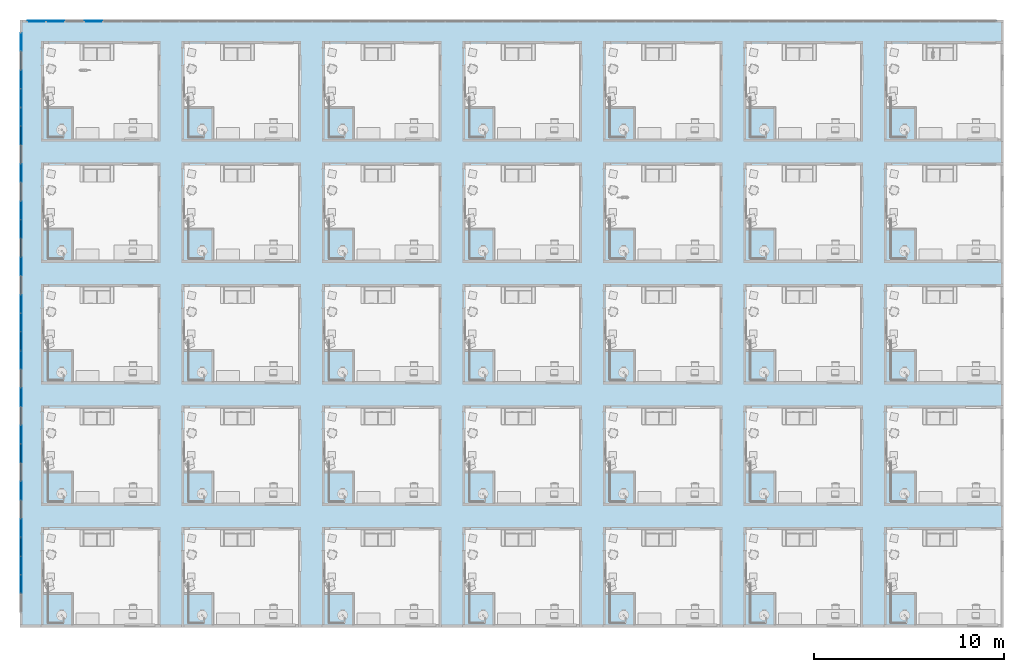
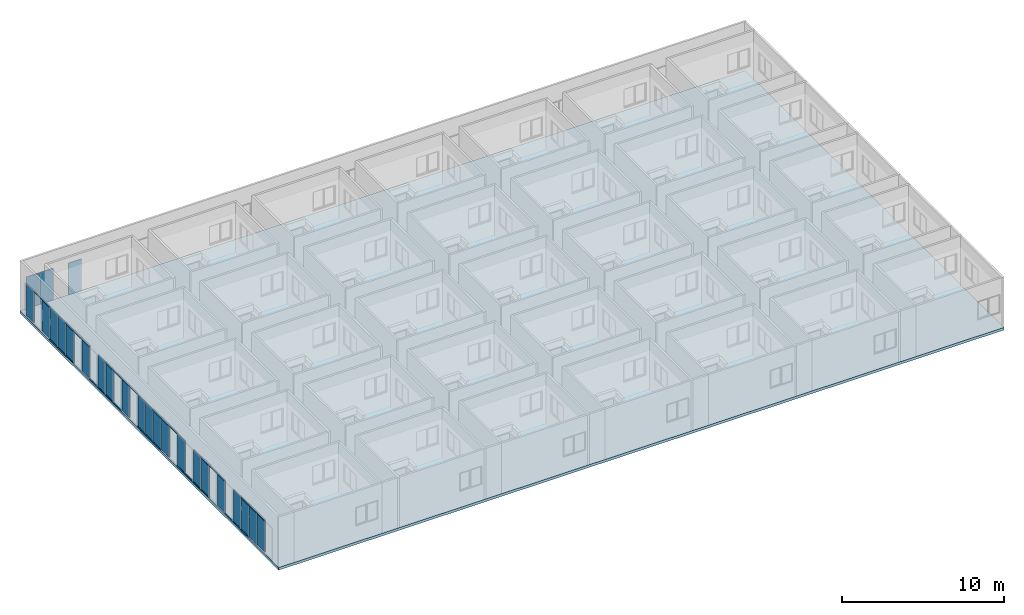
# One storey, part 5 of 71: 35 members, 24 plates, 1 slab, 2 elements without a shape of their own.
"""IFC4 building model written with IfcOpenShell, lengths in centimetres."""

from ifc_helpers import new_model, entity, si_unit, converted_unit, derived_unit, direction, frame, origin, place, context, subcontext, project, spatial, indexed_curve, outline, extrude, source, transform, mapped, material, type_object, type_shapes, element, aggregate, save


model = new_model("IFC4")

# Units and contexts
model_context = context("Model", 3, precision=0.001, world=origin(), true_north=direction((6.123233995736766e-17, 1.0)))
body_context = subcontext(model_context, "Body", "Model", "MODEL_VIEW")
ifc_project = project(units=[si_unit("LENGTHUNIT", "METRE", prefix="CENTI"), si_unit("AREAUNIT", "SQUARE_METRE"), si_unit("VOLUMEUNIT", "CUBIC_METRE"), derived_unit("THERMALTRANSMITTANCEUNIT", [(si_unit("MASSUNIT", "GRAM", prefix="KILO"), 1), (si_unit("THERMODYNAMICTEMPERATUREUNIT", "KELVIN"), -1), (si_unit("TIMEUNIT", "SECOND"), -3)]), converted_unit("PLANEANGLEUNIT", "DEGREE", entity("IfcPlaneAngleMeasure", 0.017453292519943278), si_unit("PLANEANGLEUNIT", "RADIAN"), dimensions=[0, 0, 0, 0, 0, 0, 0]), derived_unit("MASSDENSITYUNIT", [(si_unit("MASSUNIT", "GRAM", prefix="KILO"), 1), (si_unit("LENGTHUNIT", "METRE"), -3)]), derived_unit("VAPORPERMEABILITYUNIT", [(si_unit("LENGTHUNIT", "METRE"), -1), (si_unit("TIMEUNIT", "SECOND"), 1)]), derived_unit("USERDEFINED", [(si_unit("MASSUNIT", "GRAM", prefix="KILO"), 1), (si_unit("TIMEUNIT", "SECOND"), -3), (si_unit("LENGTHUNIT", "METRE"), 3), (si_unit("ELECTRICCURRENTUNIT", "AMPERE"), -2)]), derived_unit("SPECIFICHEATCAPACITYUNIT", [(si_unit("THERMODYNAMICTEMPERATUREUNIT", "KELVIN"), -1), (si_unit("LENGTHUNIT", "METRE"), 2), (si_unit("TIMEUNIT", "SECOND"), -2)]), derived_unit("THERMALCONDUCTANCEUNIT", [(si_unit("MASSUNIT", "GRAM", prefix="KILO"), 1), (si_unit("THERMODYNAMICTEMPERATUREUNIT", "KELVIN"), -1), (si_unit("TIMEUNIT", "SECOND"), -3), (si_unit("LENGTHUNIT", "METRE"), 1)]), si_unit("PRESSUREUNIT", "PASCAL"), derived_unit("MODULUSOFELASTICITYUNIT", [(si_unit("MASSUNIT", "GRAM", prefix="KILO"), 1), (si_unit("LENGTHUNIT", "METRE"), -1), (si_unit("TIMEUNIT", "SECOND"), -2)]), derived_unit("THERMALEXPANSIONCOEFFICIENTUNIT", [(si_unit("THERMODYNAMICTEMPERATUREUNIT", "KELVIN"), -1)])], contexts=[model_context])

# Site, building, storey
site_placement = place(None, origin())
site = spatial("IfcSite", under=ifc_project, at=site_placement, Name="Default", CompositionType="ELEMENT")
building_placement = place(site_placement, origin())
building = spatial("IfcBuilding", under=site, at=building_placement, Name="IDS Escape Game Building", CompositionType="ELEMENT")
storey_placement = place(building_placement, frame((0.0, 0.0, 400.0)))
storey = spatial("IfcBuildingStorey", under=building, at=storey_placement, Name="01_First Floor", CompositionType="ELEMENT", Elevation=399.99999999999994)

# Curtain wall, members
curtain_wall_type = type_object("IfcCurtainWallType", Name="Curtain Wall:ARC_31.3_CWA_LIB_bandraam vast 100cm - profiel 60x60_gen_BERSnl", PredefinedType="NOTDEFINED")
curtain_wall_1_placement = place(storey_placement, frame((0.0, 0.0, -400.0)))
curtain_wall_1 = element("IfcCurtainWall", 1, at=curtain_wall_1_placement, inside=storey, type_object=curtain_wall_type, Name="Curtain Wall:ARC_31.3_CWA_LIB_bandraam vast 100cm - profiel 60x60_gen_BERSnl", ObjectType="Curtain Wall:ARC_31.3_CWA_LIB_bandraam vast 100cm - profiel 60x60_gen_BERSnl", PredefinedType="NOTDEFINED")
ifc_material_1 = material(Name="<Unnamed>")
member_type_1 = type_object("IfcMemberType", Name="Rectangular Mullion:30-_Stijl_Rechthoek_Midden_B60xD60", PredefinedType="MULLION", material=ifc_material_1)
shared_shape_1 = source(origin(), body_context, "Body", "SweptSolid", [
    extrude(outline(indexed_curve([(-3.0, -3.0), (3.0, -3.0), (3.0, 3.0), (-3.0, 3.0), (-3.0, -3.0)], self_intersect=False)), frame((-3.0, 3.0, -98.1935483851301), z_axis=(0.0, 0.0, 1.0), x_axis=(-1.0, 0.0, 0.0)), (0.0, 0.0, 1.0), 98.1935483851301),
])
type_shapes(member_type_1, [shared_shape_1])
member_1_placement = place(curtain_wall_1_placement, frame((-110.0, 2925.61290319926, 650.0), z_axis=(0.0, -1.0, 0.0), x_axis=(0.0, 0.0, 1.0)))
member_1 = element("IfcMember", 2, at=member_1_placement, type_object=member_type_1, material=ifc_material_1, Name="Rectangular Mullion:30-_Stijl_Rechthoek_Midden_B60xD60", ObjectType="Rectangular Mullion:30-_Stijl_Rechthoek_Midden_B60xD60", PredefinedType="MULLION", context=body_context, shape_type="MappedRepresentation", body=[
    mapped(shared_shape_1, transform((0.0, 0.0, 0.0), scale=1.0)),
])
member_2_placement = place(curtain_wall_1_placement, frame((-110.0, 2827.4193548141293, 650.0), z_axis=(0.0, -1.0, 0.0), x_axis=(0.0, 0.0, 1.0)))
member_2 = element("IfcMember", 3, at=member_2_placement, type_object=member_type_1, material=ifc_material_1, Name="Rectangular Mullion:30-_Stijl_Rechthoek_Midden_B60xD60", ObjectType="Rectangular Mullion:30-_Stijl_Rechthoek_Midden_B60xD60", PredefinedType="MULLION", context=body_context, shape_type="MappedRepresentation", body=[
    mapped(shared_shape_1, transform((0.0, 0.0, 0.0), scale=1.0)),
])
member_3_placement = place(curtain_wall_1_placement, frame((-110.0, 2532.8387096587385, 650.0), z_axis=(0.0, -1.0, 0.0), x_axis=(0.0, 0.0, 1.0)))
member_3 = element("IfcMember", 4, at=member_3_placement, type_object=member_type_1, material=ifc_material_1, Name="Rectangular Mullion:30-_Stijl_Rechthoek_Midden_B60xD60", ObjectType="Rectangular Mullion:30-_Stijl_Rechthoek_Midden_B60xD60", PredefinedType="MULLION", context=body_context, shape_type="MappedRepresentation", body=[
    mapped(shared_shape_1, transform((0.0, 0.0, 0.0), scale=1.0)),
])
member_4_placement = place(curtain_wall_1_placement, frame((-110.0, 2434.645161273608, 650.0), z_axis=(0.0, -1.0, 0.0), x_axis=(0.0, 0.0, 1.0)))
member_4 = element("IfcMember", 5, at=member_4_placement, type_object=member_type_1, material=ifc_material_1, Name="Rectangular Mullion:30-_Stijl_Rechthoek_Midden_B60xD60", ObjectType="Rectangular Mullion:30-_Stijl_Rechthoek_Midden_B60xD60", PredefinedType="MULLION", context=body_context, shape_type="MappedRepresentation", body=[
    mapped(shared_shape_1, transform((0.0, 0.0, 0.0), scale=1.0)),
])
member_5_placement = place(curtain_wall_1_placement, frame((-110.0, 2336.4516128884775, 650.0), z_axis=(0.0, -1.0, 0.0), x_axis=(0.0, 0.0, 1.0)))
member_5 = element("IfcMember", 6, at=member_5_placement, type_object=member_type_1, material=ifc_material_1, Name="Rectangular Mullion:30-_Stijl_Rechthoek_Midden_B60xD60", ObjectType="Rectangular Mullion:30-_Stijl_Rechthoek_Midden_B60xD60", PredefinedType="MULLION", context=body_context, shape_type="MappedRepresentation", body=[
    mapped(shared_shape_1, transform((0.0, 0.0, 0.0), scale=1.0)),
])
member_6_placement = place(curtain_wall_1_placement, frame((-110.0, 2041.870967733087, 650.0), z_axis=(0.0, -1.0, 0.0), x_axis=(0.0, 0.0, 1.0)))
member_6 = element("IfcMember", 7, at=member_6_placement, type_object=member_type_1, material=ifc_material_1, Name="Rectangular Mullion:30-_Stijl_Rechthoek_Midden_B60xD60", ObjectType="Rectangular Mullion:30-_Stijl_Rechthoek_Midden_B60xD60", PredefinedType="MULLION", context=body_context, shape_type="MappedRepresentation", body=[
    mapped(shared_shape_1, transform((0.0, 0.0, 0.0), scale=1.0)),
])
member_7_placement = place(curtain_wall_1_placement, frame((-110.0, 1943.6774193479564, 650.0), z_axis=(0.0, -1.0, 0.0), x_axis=(0.0, 0.0, 1.0)))
member_7 = element("IfcMember", 8, at=member_7_placement, type_object=member_type_1, material=ifc_material_1, Name="Rectangular Mullion:30-_Stijl_Rechthoek_Midden_B60xD60", ObjectType="Rectangular Mullion:30-_Stijl_Rechthoek_Midden_B60xD60", PredefinedType="MULLION", context=body_context, shape_type="MappedRepresentation", body=[
    mapped(shared_shape_1, transform((0.0, 0.0, 0.0), scale=1.0)),
])
member_8_placement = place(curtain_wall_1_placement, frame((-110.0, 1845.4838709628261, 650.0), z_axis=(0.0, -1.0, 0.0), x_axis=(0.0, 0.0, 1.0)))
member_8 = element("IfcMember", 9, at=member_8_placement, type_object=member_type_1, material=ifc_material_1, Name="Rectangular Mullion:30-_Stijl_Rechthoek_Midden_B60xD60", ObjectType="Rectangular Mullion:30-_Stijl_Rechthoek_Midden_B60xD60", PredefinedType="MULLION", context=body_context, shape_type="MappedRepresentation", body=[
    mapped(shared_shape_1, transform((0.0, 0.0, 0.0), scale=1.0)),
])
member_9_placement = place(curtain_wall_1_placement, frame((-110.0, 1747.2903225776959, 650.0), z_axis=(0.0, -1.0, 0.0), x_axis=(0.0, 0.0, 1.0)))
member_9 = element("IfcMember", 10, at=member_9_placement, type_object=member_type_1, material=ifc_material_1, Name="Rectangular Mullion:30-_Stijl_Rechthoek_Midden_B60xD60", ObjectType="Rectangular Mullion:30-_Stijl_Rechthoek_Midden_B60xD60", PredefinedType="MULLION", context=body_context, shape_type="MappedRepresentation", body=[
    mapped(shared_shape_1, transform((0.0, 0.0, 0.0), scale=1.0)),
])
member_10_placement = place(curtain_wall_1_placement, frame((-110.0, 1452.7096774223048, 650.0), z_axis=(0.0, -1.0, 0.0), x_axis=(0.0, 0.0, 1.0)))
member_10 = element("IfcMember", 11, at=member_10_placement, type_object=member_type_1, material=ifc_material_1, Name="Rectangular Mullion:30-_Stijl_Rechthoek_Midden_B60xD60", ObjectType="Rectangular Mullion:30-_Stijl_Rechthoek_Midden_B60xD60", PredefinedType="MULLION", context=body_context, shape_type="MappedRepresentation", body=[
    mapped(shared_shape_1, transform((0.0, 0.0, 0.0), scale=1.0)),
])
member_11_placement = place(curtain_wall_1_placement, frame((-110.0, 1354.5161290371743, 650.0), z_axis=(0.0, -1.0, 0.0), x_axis=(0.0, 0.0, 1.0)))
member_11 = element("IfcMember", 12, at=member_11_placement, type_object=member_type_1, material=ifc_material_1, Name="Rectangular Mullion:30-_Stijl_Rechthoek_Midden_B60xD60", ObjectType="Rectangular Mullion:30-_Stijl_Rechthoek_Midden_B60xD60", PredefinedType="MULLION", context=body_context, shape_type="MappedRepresentation", body=[
    mapped(shared_shape_1, transform((0.0, 0.0, 0.0), scale=1.0)),
])
member_12_placement = place(curtain_wall_1_placement, frame((-110.0, 1256.3225806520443, 650.0), z_axis=(0.0, -1.0, 0.0), x_axis=(0.0, 0.0, 1.0)))
member_12 = element("IfcMember", 13, at=member_12_placement, type_object=member_type_1, material=ifc_material_1, Name="Rectangular Mullion:30-_Stijl_Rechthoek_Midden_B60xD60", ObjectType="Rectangular Mullion:30-_Stijl_Rechthoek_Midden_B60xD60", PredefinedType="MULLION", context=body_context, shape_type="MappedRepresentation", body=[
    mapped(shared_shape_1, transform((0.0, 0.0, 0.0), scale=1.0)),
])
member_13_placement = place(curtain_wall_1_placement, frame((-110.0, 863.5483871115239, 650.0), z_axis=(0.0, -1.0, 0.0), x_axis=(0.0, 0.0, 1.0)))
member_13 = element("IfcMember", 14, at=member_13_placement, type_object=member_type_1, material=ifc_material_1, Name="Rectangular Mullion:30-_Stijl_Rechthoek_Midden_B60xD60", ObjectType="Rectangular Mullion:30-_Stijl_Rechthoek_Midden_B60xD60", PredefinedType="MULLION", context=body_context, shape_type="MappedRepresentation", body=[
    mapped(shared_shape_1, transform((0.0, 0.0, 0.0), scale=1.0)),
])
member_14_placement = place(curtain_wall_1_placement, frame((-110.0, 765.3548387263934, 650.0), z_axis=(0.0, -1.0, 0.0), x_axis=(0.0, 0.0, 1.0)))
member_14 = element("IfcMember", 15, at=member_14_placement, type_object=member_type_1, material=ifc_material_1, Name="Rectangular Mullion:30-_Stijl_Rechthoek_Midden_B60xD60", ObjectType="Rectangular Mullion:30-_Stijl_Rechthoek_Midden_B60xD60", PredefinedType="MULLION", context=body_context, shape_type="MappedRepresentation", body=[
    mapped(shared_shape_1, transform((0.0, 0.0, 0.0), scale=1.0)),
])
member_15_placement = place(curtain_wall_1_placement, frame((-110.0, 667.1612903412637, 650.0), z_axis=(0.0, -1.0, 0.0), x_axis=(0.0, 0.0, 1.0)))
member_15 = element("IfcMember", 16, at=member_15_placement, type_object=member_type_1, material=ifc_material_1, Name="Rectangular Mullion:30-_Stijl_Rechthoek_Midden_B60xD60", ObjectType="Rectangular Mullion:30-_Stijl_Rechthoek_Midden_B60xD60", PredefinedType="MULLION", context=body_context, shape_type="MappedRepresentation", body=[
    mapped(shared_shape_1, transform((0.0, 0.0, 0.0), scale=1.0)),
])
member_16_placement = place(curtain_wall_1_placement, frame((-110.0, 372.58064518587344, 650.0), z_axis=(0.0, -1.0, 0.0), x_axis=(0.0, 0.0, 1.0)))
member_16 = element("IfcMember", 17, at=member_16_placement, type_object=member_type_1, material=ifc_material_1, Name="Rectangular Mullion:30-_Stijl_Rechthoek_Midden_B60xD60", ObjectType="Rectangular Mullion:30-_Stijl_Rechthoek_Midden_B60xD60", PredefinedType="MULLION", context=body_context, shape_type="MappedRepresentation", body=[
    mapped(shared_shape_1, transform((0.0, 0.0, 0.0), scale=1.0)),
])
member_17_placement = place(curtain_wall_1_placement, frame((-110.0, 274.38709680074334, 650.0), z_axis=(0.0, -1.0, 0.0), x_axis=(0.0, 0.0, 1.0)))
member_17 = element("IfcMember", 18, at=member_17_placement, type_object=member_type_1, material=ifc_material_1, Name="Rectangular Mullion:30-_Stijl_Rechthoek_Midden_B60xD60", ObjectType="Rectangular Mullion:30-_Stijl_Rechthoek_Midden_B60xD60", PredefinedType="MULLION", context=body_context, shape_type="MappedRepresentation", body=[
    mapped(shared_shape_1, transform((0.0, 0.0, 0.0), scale=1.0)),
])
member_18_placement = place(curtain_wall_1_placement, frame((-110.0, 176.19354841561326, 650.0), z_axis=(0.0, -1.0, 0.0), x_axis=(0.0, 0.0, 1.0)))
member_18 = element("IfcMember", 19, at=member_18_placement, type_object=member_type_1, material=ifc_material_1, Name="Rectangular Mullion:30-_Stijl_Rechthoek_Midden_B60xD60", ObjectType="Rectangular Mullion:30-_Stijl_Rechthoek_Midden_B60xD60", PredefinedType="MULLION", context=body_context, shape_type="MappedRepresentation", body=[
    mapped(shared_shape_1, transform((0.0, 0.0, 0.0), scale=1.0)),
])
member_type_2 = type_object("IfcMemberType", Name="Rectangular Mullion:30-_Stijl_Rechthoek_Midden_B60xD60", PredefinedType="MULLION", material=ifc_material_1)
shared_shape_2 = source(origin(), body_context, "Body", "SweptSolid", [
    extrude(outline(indexed_curve([(-3.0, -3.0), (3.0, -3.0), (3.0, 3.0), (-3.0, 3.0), (-3.0, -3.0)], self_intersect=False)), frame((-3.0, 3.0, -98.1935483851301), z_axis=(0.0, 0.0, 1.0), x_axis=(-1.0, 0.0, 0.0)), (0.0, 0.0, 1.0), 98.1935483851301),
])
type_shapes(member_type_2, [shared_shape_2])
member_19_placement = place(curtain_wall_1_placement, frame((-110.0, 2827.4193548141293, 400.0), z_axis=(0.0, 1.0, 0.0), x_axis=(0.0, 0.0, -1.0)))
member_19 = element("IfcMember", 20, at=member_19_placement, type_object=member_type_2, material=ifc_material_1, Name="Rectangular Mullion:30-_Stijl_Rechthoek_Midden_B60xD60", ObjectType="Rectangular Mullion:30-_Stijl_Rechthoek_Midden_B60xD60", PredefinedType="MULLION", context=body_context, shape_type="MappedRepresentation", body=[
    mapped(shared_shape_2, transform((0.0, 0.0, 0.0), scale=1.0)),
])
member_20_placement = place(curtain_wall_1_placement, frame((-110.0, 2729.2258064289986, 400.0), z_axis=(0.0, 1.0, 0.0), x_axis=(0.0, 0.0, -1.0)))
member_20 = element("IfcMember", 21, at=member_20_placement, type_object=member_type_2, material=ifc_material_1, Name="Rectangular Mullion:30-_Stijl_Rechthoek_Midden_B60xD60", ObjectType="Rectangular Mullion:30-_Stijl_Rechthoek_Midden_B60xD60", PredefinedType="MULLION", context=body_context, shape_type="MappedRepresentation", body=[
    mapped(shared_shape_2, transform((0.0, 0.0, 0.0), scale=1.0)),
])
member_21_placement = place(curtain_wall_1_placement, frame((-110.0, 2631.0322580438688, 400.0), z_axis=(0.0, 1.0, 0.0), x_axis=(0.0, 0.0, -1.0)))
member_21 = element("IfcMember", 22, at=member_21_placement, type_object=member_type_2, material=ifc_material_1, Name="Rectangular Mullion:30-_Stijl_Rechthoek_Midden_B60xD60", ObjectType="Rectangular Mullion:30-_Stijl_Rechthoek_Midden_B60xD60", PredefinedType="MULLION", context=body_context, shape_type="MappedRepresentation", body=[
    mapped(shared_shape_2, transform((0.0, 0.0, 0.0), scale=1.0)),
])
member_22_placement = place(curtain_wall_1_placement, frame((-110.0, 2336.4516128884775, 400.0), z_axis=(0.0, 1.0, 0.0), x_axis=(0.0, 0.0, -1.0)))
member_22 = element("IfcMember", 23, at=member_22_placement, type_object=member_type_2, material=ifc_material_1, Name="Rectangular Mullion:30-_Stijl_Rechthoek_Midden_B60xD60", ObjectType="Rectangular Mullion:30-_Stijl_Rechthoek_Midden_B60xD60", PredefinedType="MULLION", context=body_context, shape_type="MappedRepresentation", body=[
    mapped(shared_shape_2, transform((0.0, 0.0, 0.0), scale=1.0)),
])
member_23_placement = place(curtain_wall_1_placement, frame((-110.0, 2238.258064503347, 400.0), z_axis=(0.0, 1.0, 0.0), x_axis=(0.0, 0.0, -1.0)))
member_23 = element("IfcMember", 24, at=member_23_placement, type_object=member_type_2, material=ifc_material_1, Name="Rectangular Mullion:30-_Stijl_Rechthoek_Midden_B60xD60", ObjectType="Rectangular Mullion:30-_Stijl_Rechthoek_Midden_B60xD60", PredefinedType="MULLION", context=body_context, shape_type="MappedRepresentation", body=[
    mapped(shared_shape_2, transform((0.0, 0.0, 0.0), scale=1.0)),
])
member_24_placement = place(curtain_wall_1_placement, frame((-110.0, 2140.0645161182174, 400.0), z_axis=(0.0, 1.0, 0.0), x_axis=(0.0, 0.0, -1.0)))
member_24 = element("IfcMember", 25, at=member_24_placement, type_object=member_type_2, material=ifc_material_1, Name="Rectangular Mullion:30-_Stijl_Rechthoek_Midden_B60xD60", ObjectType="Rectangular Mullion:30-_Stijl_Rechthoek_Midden_B60xD60", PredefinedType="MULLION", context=body_context, shape_type="MappedRepresentation", body=[
    mapped(shared_shape_2, transform((0.0, 0.0, 0.0), scale=1.0)),
])
member_25_placement = place(curtain_wall_1_placement, frame((-110.0, 2041.870967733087, 400.0), z_axis=(0.0, 1.0, 0.0), x_axis=(0.0, 0.0, -1.0)))
member_25 = element("IfcMember", 26, at=member_25_placement, type_object=member_type_2, material=ifc_material_1, Name="Rectangular Mullion:30-_Stijl_Rechthoek_Midden_B60xD60", ObjectType="Rectangular Mullion:30-_Stijl_Rechthoek_Midden_B60xD60", PredefinedType="MULLION", context=body_context, shape_type="MappedRepresentation", body=[
    mapped(shared_shape_2, transform((0.0, 0.0, 0.0), scale=1.0)),
])
member_26_placement = place(curtain_wall_1_placement, frame((-110.0, 1747.2903225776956, 400.0), z_axis=(0.0, 1.0, 0.0), x_axis=(0.0, 0.0, -1.0)))
member_26 = element("IfcMember", 27, at=member_26_placement, type_object=member_type_2, material=ifc_material_1, Name="Rectangular Mullion:30-_Stijl_Rechthoek_Midden_B60xD60", ObjectType="Rectangular Mullion:30-_Stijl_Rechthoek_Midden_B60xD60", PredefinedType="MULLION", context=body_context, shape_type="MappedRepresentation", body=[
    mapped(shared_shape_2, transform((0.0, 0.0, 0.0), scale=1.0)),
])
member_27_placement = place(curtain_wall_1_placement, frame((-110.0, 1649.0967741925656, 400.0), z_axis=(0.0, 1.0, 0.0), x_axis=(0.0, 0.0, -1.0)))
member_27 = element("IfcMember", 28, at=member_27_placement, type_object=member_type_2, material=ifc_material_1, Name="Rectangular Mullion:30-_Stijl_Rechthoek_Midden_B60xD60", ObjectType="Rectangular Mullion:30-_Stijl_Rechthoek_Midden_B60xD60", PredefinedType="MULLION", context=body_context, shape_type="MappedRepresentation", body=[
    mapped(shared_shape_2, transform((0.0, 0.0, 0.0), scale=1.0)),
])
member_28_placement = place(curtain_wall_1_placement, frame((-110.0, 1550.9032258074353, 400.0), z_axis=(0.0, 1.0, 0.0), x_axis=(0.0, 0.0, -1.0)))
member_28 = element("IfcMember", 29, at=member_28_placement, type_object=member_type_2, material=ifc_material_1, Name="Rectangular Mullion:30-_Stijl_Rechthoek_Midden_B60xD60", ObjectType="Rectangular Mullion:30-_Stijl_Rechthoek_Midden_B60xD60", PredefinedType="MULLION", context=body_context, shape_type="MappedRepresentation", body=[
    mapped(shared_shape_2, transform((0.0, 0.0, 0.0), scale=1.0)),
])
member_29_placement = place(curtain_wall_1_placement, frame((-110.0, 1256.3225806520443, 400.0), z_axis=(0.0, 1.0, 0.0), x_axis=(0.0, 0.0, -1.0)))
member_29 = element("IfcMember", 30, at=member_29_placement, type_object=member_type_2, material=ifc_material_1, Name="Rectangular Mullion:30-_Stijl_Rechthoek_Midden_B60xD60", ObjectType="Rectangular Mullion:30-_Stijl_Rechthoek_Midden_B60xD60", PredefinedType="MULLION", context=body_context, shape_type="MappedRepresentation", body=[
    mapped(shared_shape_2, transform((0.0, 0.0, 0.0), scale=1.0)),
])
member_30_placement = place(curtain_wall_1_placement, frame((-110.0, 1158.1290322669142, 400.0), z_axis=(0.0, 1.0, 0.0), x_axis=(0.0, 0.0, -1.0)))
member_30 = element("IfcMember", 31, at=member_30_placement, type_object=member_type_2, material=ifc_material_1, Name="Rectangular Mullion:30-_Stijl_Rechthoek_Midden_B60xD60", ObjectType="Rectangular Mullion:30-_Stijl_Rechthoek_Midden_B60xD60", PredefinedType="MULLION", context=body_context, shape_type="MappedRepresentation", body=[
    mapped(shared_shape_2, transform((0.0, 0.0, 0.0), scale=1.0)),
])
member_31_placement = place(curtain_wall_1_placement, frame((-110.0, 1059.9354838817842, 400.0), z_axis=(0.0, 1.0, 0.0), x_axis=(0.0, 0.0, -1.0)))
member_31 = element("IfcMember", 32, at=member_31_placement, type_object=member_type_2, material=ifc_material_1, Name="Rectangular Mullion:30-_Stijl_Rechthoek_Midden_B60xD60", ObjectType="Rectangular Mullion:30-_Stijl_Rechthoek_Midden_B60xD60", PredefinedType="MULLION", context=body_context, shape_type="MappedRepresentation", body=[
    mapped(shared_shape_2, transform((0.0, 0.0, 0.0), scale=1.0)),
])
member_32_placement = place(curtain_wall_1_placement, frame((-110.0, 961.741935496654, 400.0), z_axis=(0.0, 1.0, 0.0), x_axis=(0.0, 0.0, -1.0)))
member_32 = element("IfcMember", 33, at=member_32_placement, type_object=member_type_2, material=ifc_material_1, Name="Rectangular Mullion:30-_Stijl_Rechthoek_Midden_B60xD60", ObjectType="Rectangular Mullion:30-_Stijl_Rechthoek_Midden_B60xD60", PredefinedType="MULLION", context=body_context, shape_type="MappedRepresentation", body=[
    mapped(shared_shape_2, transform((0.0, 0.0, 0.0), scale=1.0)),
])
member_33_placement = place(curtain_wall_1_placement, frame((-110.0, 667.1612903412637, 400.0), z_axis=(0.0, 1.0, 0.0), x_axis=(0.0, 0.0, -1.0)))
member_33 = element("IfcMember", 34, at=member_33_placement, type_object=member_type_2, material=ifc_material_1, Name="Rectangular Mullion:30-_Stijl_Rechthoek_Midden_B60xD60", ObjectType="Rectangular Mullion:30-_Stijl_Rechthoek_Midden_B60xD60", PredefinedType="MULLION", context=body_context, shape_type="MappedRepresentation", body=[
    mapped(shared_shape_2, transform((0.0, 0.0, 0.0), scale=1.0)),
])
member_34_placement = place(curtain_wall_1_placement, frame((-110.0, 568.9677419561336, 400.0), z_axis=(0.0, 1.0, 0.0), x_axis=(0.0, 0.0, -1.0)))
member_34 = element("IfcMember", 35, at=member_34_placement, type_object=member_type_2, material=ifc_material_1, Name="Rectangular Mullion:30-_Stijl_Rechthoek_Midden_B60xD60", ObjectType="Rectangular Mullion:30-_Stijl_Rechthoek_Midden_B60xD60", PredefinedType="MULLION", context=body_context, shape_type="MappedRepresentation", body=[
    mapped(shared_shape_2, transform((0.0, 0.0, 0.0), scale=1.0)),
])
member_35_placement = place(curtain_wall_1_placement, frame((-110.0, 470.77419357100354, 400.0), z_axis=(0.0, 1.0, 0.0), x_axis=(0.0, 0.0, -1.0)))
member_35 = element("IfcMember", 36, at=member_35_placement, type_object=member_type_2, material=ifc_material_1, Name="Rectangular Mullion:30-_Stijl_Rechthoek_Midden_B60xD60", ObjectType="Rectangular Mullion:30-_Stijl_Rechthoek_Midden_B60xD60", PredefinedType="MULLION", context=body_context, shape_type="MappedRepresentation", body=[
    mapped(shared_shape_2, transform((0.0, 0.0, 0.0), scale=1.0)),
])

# Slab
ifc_material_2 = material(Name="ARC_FME.f2_Ef2-Cast-In-Place Concrete_C30/37_gen_BERSnl", Category="f - niet-gebakken kunststeen")
slab_type = type_object("IfcSlabType", Name="Floor:ARC_13_FL_SB_ConcreteCIP-20cm_gen_BERSnl", PredefinedType="FLOOR", material=ifc_material_2)
slab_placement = place(storey_placement, origin())
element("IfcSlab", 37, at=slab_placement, inside=storey, type_object=slab_type, material=ifc_material_2, Name="Floor:ARC_13_FL_SB_ConcreteCIP-20cm_gen_BERSnl", ObjectType="Floor:ARC_13_FL_SB_ConcreteCIP-20cm_gen_BERSnl", PredefinedType="FLOOR", context=body_context, shape_type="SweptSolid", body=[
    extrude(outline(indexed_curve([(-1595.0000000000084, -2582.9999999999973), (1595.0000000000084, -2582.9999999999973), (1595.0000000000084, 2582.9999999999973), (-1595.0000000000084, 2582.9999999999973), (-1595.0000000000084, -2582.9999999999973)], self_intersect=False)), frame((2466.0, 1594.0, 0.0), z_axis=(0.0, 0.0, -1.0), x_axis=(0.0, 1.0, 0.0)), (0.0, 0.0, 1.0), 20.0),
])

# Curtain wall, plates
curtain_wall_2_placement = place(storey_placement, frame((0.0, 0.0, -400.0)))
curtain_wall_2 = element("IfcCurtainWall", 38, at=curtain_wall_2_placement, inside=storey, type_object=curtain_wall_type, Name="Curtain Wall:ARC_31.3_CWA_LIB_bandraam vast 100cm - profiel 60x60_gen_BERSnl", ObjectType="Curtain Wall:ARC_31.3_CWA_LIB_bandraam vast 100cm - profiel 60x60_gen_BERSnl", PredefinedType="NOTDEFINED")
ifc_material_3 = material(Name="ARC_FME.o1_glass_00_gen_BERSnl", Category="o - glas")
plate_type_1 = type_object("IfcPlateType", Name="System Panel:Glazed", PredefinedType="CURTAIN_PANEL", material=ifc_material_3)
shared_shape_3 = source(origin(), body_context, "Body", "SweptSolid", [
    extrude(outline(indexed_curve([(-2.5, -46.92156864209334), (2.5, -46.92156864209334), (2.5, 46.92156864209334), (-2.5, 46.92156864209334), (-2.5, -46.92156864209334)], self_intersect=False)), frame((0.0, 0.0, 0.0), z_axis=(0.0, 0.0, 1.0), x_axis=(0.0, 1.0, 0.0)), (0.0, 0.0, 1.0), 238.00000000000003),
])
type_shapes(plate_type_1, [shared_shape_3])
plate_1_placement = place(curtain_wall_2_placement, frame((-30.078431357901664, 3182.0, 406.0)))
plate_1 = element("IfcPlate", 39, at=plate_1_placement, type_object=plate_type_1, material=ifc_material_3, Name="System Panel:Glazed", ObjectType="System Panel:Glazed", PredefinedType="CURTAIN_PANEL", context=body_context, shape_type="MappedRepresentation", body=[
    mapped(shared_shape_3, transform((0.0, 0.0, 0.0), scale=1.0)),
])
plate_2_placement = place(curtain_wall_2_placement, frame((69.76470591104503, 3182.0, 406.0)))
plate_2 = element("IfcPlate", 40, at=plate_2_placement, type_object=plate_type_1, material=ifc_material_3, Name="System Panel:Glazed", ObjectType="System Panel:Glazed", PredefinedType="CURTAIN_PANEL", context=body_context, shape_type="MappedRepresentation", body=[
    mapped(shared_shape_3, transform((0.0, 0.0, 0.0), scale=1.0)),
])
plate_3_placement = place(curtain_wall_2_placement, frame((269.45098041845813, 3182.0, 406.0)))
plate_3 = element("IfcPlate", 41, at=plate_3_placement, type_object=plate_type_1, material=ifc_material_3, Name="System Panel:Glazed", ObjectType="System Panel:Glazed", PredefinedType="CURTAIN_PANEL", context=body_context, shape_type="MappedRepresentation", body=[
    mapped(shared_shape_3, transform((0.0, 0.0, 0.0), scale=1.0)),
])
aggregate(curtain_wall_2, [plate_1, plate_2, plate_3])

# Plate
plate_type_2 = type_object("IfcPlateType", Name="System Panel:Glazed", PredefinedType="CURTAIN_PANEL", material=ifc_material_3)
shared_shape_4 = source(origin(), body_context, "Body", "SweptSolid", [
    extrude(outline(indexed_curve([(-2.5, -46.09677420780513), (2.5, -46.09677420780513), (2.5, 46.09677420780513), (-2.5, 46.09677420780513), (-2.5, -46.09677420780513)], self_intersect=False)), frame((0.0, 0.0, 0.0), z_axis=(0.0, 0.0, 1.0), x_axis=(0.0, 1.0, 0.0)), (0.0, 0.0, 1.0), 238.00000000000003),
])
type_shapes(plate_type_2, [shared_shape_4])
plate_4_placement = place(curtain_wall_1_placement, frame((-110.0, 3072.9032257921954, 406.0), z_axis=(0.0, 0.0, 1.0), x_axis=(0.0, -1.0, 0.0)))
plate_4 = element("IfcPlate", 42, at=plate_4_placement, type_object=plate_type_2, material=ifc_material_3, Name="System Panel:Glazed", ObjectType="System Panel:Glazed", PredefinedType="CURTAIN_PANEL", context=body_context, shape_type="MappedRepresentation", body=[
    mapped(shared_shape_4, transform((0.0, 0.0, 0.0), scale=1.0)),
])

plate_5_placement = place(curtain_wall_1_placement, frame((-110.0, 2876.516129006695, 406.0), z_axis=(0.0, 0.0, 1.0), x_axis=(0.0, -1.0, 0.0)))
plate_5 = element("IfcPlate", 43, at=plate_5_placement, type_object=plate_type_2, material=ifc_material_3, Name="System Panel:Glazed", ObjectType="System Panel:Glazed", PredefinedType="CURTAIN_PANEL", context=body_context, shape_type="MappedRepresentation", body=[
    mapped(shared_shape_4, transform((0.0, 0.0, 0.0), scale=1.0)),
])

plate_6_placement = place(curtain_wall_1_placement, frame((-110.0, 2778.3225806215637, 406.0), z_axis=(0.0, 0.0, 1.0), x_axis=(0.0, -1.0, 0.0)))
plate_6 = element("IfcPlate", 44, at=plate_6_placement, type_object=plate_type_2, material=ifc_material_3, Name="System Panel:Glazed", ObjectType="System Panel:Glazed", PredefinedType="CURTAIN_PANEL", context=body_context, shape_type="MappedRepresentation", body=[
    mapped(shared_shape_4, transform((0.0, 0.0, 0.0), scale=1.0)),
])

plate_7_placement = place(curtain_wall_1_placement, frame((-110.0, 2680.129032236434, 406.0), z_axis=(0.0, 0.0, 1.0), x_axis=(0.0, -1.0, 0.0)))
plate_7 = element("IfcPlate", 45, at=plate_7_placement, type_object=plate_type_2, material=ifc_material_3, Name="System Panel:Glazed", ObjectType="System Panel:Glazed", PredefinedType="CURTAIN_PANEL", context=body_context, shape_type="MappedRepresentation", body=[
    mapped(shared_shape_4, transform((0.0, 0.0, 0.0), scale=1.0)),
])

plate_8_placement = place(curtain_wall_1_placement, frame((-110.0, 2581.9354838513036, 406.0), z_axis=(0.0, 0.0, 1.0), x_axis=(0.0, -1.0, 0.0)))
plate_8 = element("IfcPlate", 46, at=plate_8_placement, type_object=plate_type_2, material=ifc_material_3, Name="System Panel:Glazed", ObjectType="System Panel:Glazed", PredefinedType="CURTAIN_PANEL", context=body_context, shape_type="MappedRepresentation", body=[
    mapped(shared_shape_4, transform((0.0, 0.0, 0.0), scale=1.0)),
])

plate_9_placement = place(curtain_wall_1_placement, frame((-110.0, 2385.5483870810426, 406.0), z_axis=(0.0, 0.0, 1.0), x_axis=(0.0, -1.0, 0.0)))
plate_9 = element("IfcPlate", 47, at=plate_9_placement, type_object=plate_type_2, material=ifc_material_3, Name="System Panel:Glazed", ObjectType="System Panel:Glazed", PredefinedType="CURTAIN_PANEL", context=body_context, shape_type="MappedRepresentation", body=[
    mapped(shared_shape_4, transform((0.0, 0.0, 0.0), scale=1.0)),
])

plate_10_placement = place(curtain_wall_1_placement, frame((-110.0, 2189.1612903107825, 406.0), z_axis=(0.0, 0.0, 1.0), x_axis=(0.0, -1.0, 0.0)))
plate_10 = element("IfcPlate", 48, at=plate_10_placement, type_object=plate_type_2, material=ifc_material_3, Name="System Panel:Glazed", ObjectType="System Panel:Glazed", PredefinedType="CURTAIN_PANEL", context=body_context, shape_type="MappedRepresentation", body=[
    mapped(shared_shape_4, transform((0.0, 0.0, 0.0), scale=1.0)),
])

plate_11_placement = place(curtain_wall_1_placement, frame((-110.0, 2090.9677419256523, 406.0), z_axis=(0.0, 0.0, 1.0), x_axis=(0.0, -1.0, 0.0)))
plate_11 = element("IfcPlate", 49, at=plate_11_placement, type_object=plate_type_2, material=ifc_material_3, Name="System Panel:Glazed", ObjectType="System Panel:Glazed", PredefinedType="CURTAIN_PANEL", context=body_context, shape_type="MappedRepresentation", body=[
    mapped(shared_shape_4, transform((0.0, 0.0, 0.0), scale=1.0)),
])

plate_12_placement = place(curtain_wall_1_placement, frame((-110.0, 1894.5806451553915, 406.0), z_axis=(0.0, 0.0, 1.0), x_axis=(0.0, -1.0, 0.0)))
plate_12 = element("IfcPlate", 50, at=plate_12_placement, type_object=plate_type_2, material=ifc_material_3, Name="System Panel:Glazed", ObjectType="System Panel:Glazed", PredefinedType="CURTAIN_PANEL", context=body_context, shape_type="MappedRepresentation", body=[
    mapped(shared_shape_4, transform((0.0, 0.0, 0.0), scale=1.0)),
])

plate_13_placement = place(curtain_wall_1_placement, frame((-110.0, 1698.1935483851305, 406.0), z_axis=(0.0, 0.0, 1.0), x_axis=(0.0, -1.0, 0.0)))
plate_13 = element("IfcPlate", 51, at=plate_13_placement, type_object=plate_type_2, material=ifc_material_3, Name="System Panel:Glazed", ObjectType="System Panel:Glazed", PredefinedType="CURTAIN_PANEL", context=body_context, shape_type="MappedRepresentation", body=[
    mapped(shared_shape_4, transform((0.0, 0.0, 0.0), scale=1.0)),
])

plate_14_placement = place(curtain_wall_1_placement, frame((-110.0, 1600.0, 406.0), z_axis=(0.0, 0.0, 1.0), x_axis=(0.0, -1.0, 0.0)))
plate_14 = element("IfcPlate", 52, at=plate_14_placement, type_object=plate_type_2, material=ifc_material_3, Name="System Panel:Glazed", ObjectType="System Panel:Glazed", PredefinedType="CURTAIN_PANEL", context=body_context, shape_type="MappedRepresentation", body=[
    mapped(shared_shape_4, transform((0.0, 0.0, 0.0), scale=1.0)),
])

plate_15_placement = place(curtain_wall_1_placement, frame((-110.0, 1501.80645161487, 406.0), z_axis=(0.0, 0.0, 1.0), x_axis=(0.0, -1.0, 0.0)))
plate_15 = element("IfcPlate", 53, at=plate_15_placement, type_object=plate_type_2, material=ifc_material_3, Name="System Panel:Glazed", ObjectType="System Panel:Glazed", PredefinedType="CURTAIN_PANEL", context=body_context, shape_type="MappedRepresentation", body=[
    mapped(shared_shape_4, transform((0.0, 0.0, 0.0), scale=1.0)),
])

plate_16_placement = place(curtain_wall_1_placement, frame((-110.0, 1403.6129032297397, 406.0), z_axis=(0.0, 0.0, 1.0), x_axis=(0.0, -1.0, 0.0)))
plate_16 = element("IfcPlate", 54, at=plate_16_placement, type_object=plate_type_2, material=ifc_material_3, Name="System Panel:Glazed", ObjectType="System Panel:Glazed", PredefinedType="CURTAIN_PANEL", context=body_context, shape_type="MappedRepresentation", body=[
    mapped(shared_shape_4, transform((0.0, 0.0, 0.0), scale=1.0)),
])

plate_17_placement = place(curtain_wall_1_placement, frame((-110.0, 1207.2258064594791, 406.0), z_axis=(0.0, 0.0, 1.0), x_axis=(0.0, -1.0, 0.0)))
plate_17 = element("IfcPlate", 55, at=plate_17_placement, type_object=plate_type_2, material=ifc_material_3, Name="System Panel:Glazed", ObjectType="System Panel:Glazed", PredefinedType="CURTAIN_PANEL", context=body_context, shape_type="MappedRepresentation", body=[
    mapped(shared_shape_4, transform((0.0, 0.0, 0.0), scale=1.0)),
])

plate_18_placement = place(curtain_wall_1_placement, frame((-110.0, 1010.8387096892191, 406.0), z_axis=(0.0, 0.0, 1.0), x_axis=(0.0, -1.0, 0.0)))
plate_18 = element("IfcPlate", 56, at=plate_18_placement, type_object=plate_type_2, material=ifc_material_3, Name="System Panel:Glazed", ObjectType="System Panel:Glazed", PredefinedType="CURTAIN_PANEL", context=body_context, shape_type="MappedRepresentation", body=[
    mapped(shared_shape_4, transform((0.0, 0.0, 0.0), scale=1.0)),
])

plate_19_placement = place(curtain_wall_1_placement, frame((-110.0, 912.645161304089, 406.0), z_axis=(0.0, 0.0, 1.0), x_axis=(0.0, -1.0, 0.0)))
plate_19 = element("IfcPlate", 57, at=plate_19_placement, type_object=plate_type_2, material=ifc_material_3, Name="System Panel:Glazed", ObjectType="System Panel:Glazed", PredefinedType="CURTAIN_PANEL", context=body_context, shape_type="MappedRepresentation", body=[
    mapped(shared_shape_4, transform((0.0, 0.0, 0.0), scale=1.0)),
])

plate_20_placement = place(curtain_wall_1_placement, frame((-110.0, 716.2580645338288, 406.0), z_axis=(0.0, 0.0, 1.0), x_axis=(0.0, -1.0, 0.0)))
plate_20 = element("IfcPlate", 58, at=plate_20_placement, type_object=plate_type_2, material=ifc_material_3, Name="System Panel:Glazed", ObjectType="System Panel:Glazed", PredefinedType="CURTAIN_PANEL", context=body_context, shape_type="MappedRepresentation", body=[
    mapped(shared_shape_4, transform((0.0, 0.0, 0.0), scale=1.0)),
])

plate_21_placement = place(curtain_wall_1_placement, frame((-110.0, 519.8709677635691, 406.0), z_axis=(0.0, 0.0, 1.0), x_axis=(0.0, -1.0, 0.0)))
plate_21 = element("IfcPlate", 59, at=plate_21_placement, type_object=plate_type_2, material=ifc_material_3, Name="System Panel:Glazed", ObjectType="System Panel:Glazed", PredefinedType="CURTAIN_PANEL", context=body_context, shape_type="MappedRepresentation", body=[
    mapped(shared_shape_4, transform((0.0, 0.0, 0.0), scale=1.0)),
])

plate_22_placement = place(curtain_wall_1_placement, frame((-110.0, 421.6774193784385, 406.0), z_axis=(0.0, 0.0, 1.0), x_axis=(0.0, -1.0, 0.0)))
plate_22 = element("IfcPlate", 60, at=plate_22_placement, type_object=plate_type_2, material=ifc_material_3, Name="System Panel:Glazed", ObjectType="System Panel:Glazed", PredefinedType="CURTAIN_PANEL", context=body_context, shape_type="MappedRepresentation", body=[
    mapped(shared_shape_4, transform((0.0, 0.0, 0.0), scale=1.0)),
])

plate_23_placement = place(curtain_wall_1_placement, frame((-110.0, 323.4838709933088, 406.0), z_axis=(0.0, 0.0, 1.0), x_axis=(0.0, -1.0, 0.0)))
plate_23 = element("IfcPlate", 61, at=plate_23_placement, type_object=plate_type_2, material=ifc_material_3, Name="System Panel:Glazed", ObjectType="System Panel:Glazed", PredefinedType="CURTAIN_PANEL", context=body_context, shape_type="MappedRepresentation", body=[
    mapped(shared_shape_4, transform((0.0, 0.0, 0.0), scale=1.0)),
])

plate_24_placement = place(curtain_wall_1_placement, frame((-110.0, 225.29032260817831, 406.0), z_axis=(0.0, 0.0, 1.0), x_axis=(0.0, -1.0, 0.0)))
plate_24 = element("IfcPlate", 62, at=plate_24_placement, type_object=plate_type_2, material=ifc_material_3, Name="System Panel:Glazed", ObjectType="System Panel:Glazed", PredefinedType="CURTAIN_PANEL", context=body_context, shape_type="MappedRepresentation", body=[
    mapped(shared_shape_4, transform((0.0, 0.0, 0.0), scale=1.0)),
])

aggregate(curtain_wall_1, [plate_4, plate_5, plate_6, plate_7, plate_8, plate_9, plate_10, plate_11, plate_12, plate_13, plate_14, plate_15, plate_16, plate_17, plate_18, plate_19, plate_20, plate_21, plate_22, plate_23, plate_24, member_1, member_2, member_3, member_4, member_5, member_6, member_7, member_8, member_9, member_10, member_11, member_12, member_13, member_14, member_15, member_16, member_17, member_18, member_19, member_20, member_21, member_22, member_23, member_24, member_25, member_26, member_27, member_28, member_29, member_30, member_31, member_32, member_33, member_34, member_35])

save(model, "model.ifc")
